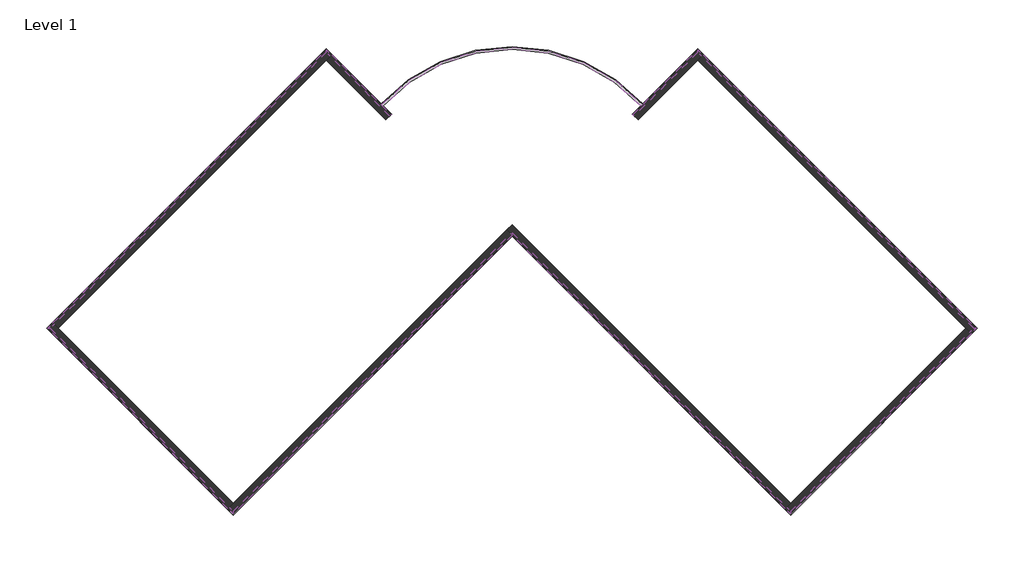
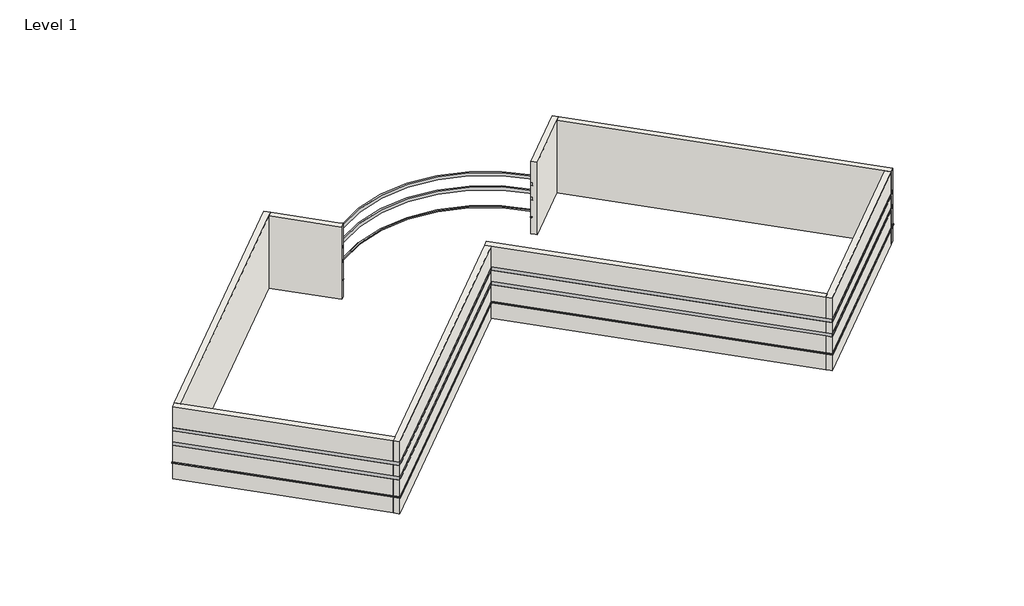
# One storey, incomplete: 27 proxies, 8 walls.
"""IFC4 building model written with IfcOpenShell, lengths in millimetres."""

from ifc_helpers import new_model, si_unit, point, frame, frame_2d, origin, place, context, project, spatial, polyline, circle_curve, trimmed, segment, composite_curve, outline, extrude, faceted_brep, element, save
from ifc_brep_helpers import plane_surface, cylinder_surface, revolved_surface, advanced_brep

model = new_model("IFC4")

# Units and contexts
model_context = context("Model", 3, world=origin())
ifc_project = project(units=[si_unit("LENGTHUNIT", "METRE", prefix="MILLI")], contexts=[model_context])

# Site, building, storey
site = spatial("IfcSite", under=ifc_project)
building = spatial("IfcBuilding", under=site)
storey = spatial("IfcBuildingStorey", under=building, Name="Level 1", Elevation=0.0)

# Proxies
placement = place(None, origin())
element("IfcBuildingElementProxy", 1, Name="Wall Sweeps", at=placement, inside=storey, context=model_context, shape_type="Brep", body=[
    faceted_brep([(4452.4879241, 1846.4678711, 1085.85), (4387.3810672, 1911.574728, 1085.85), (4362.6853629, 1936.2704323, 1041.4), (4362.6853629, 1936.2704323, 1016.0), (4387.3810672, 1911.574728, 1016.0), (4452.4879241, 1846.4678711, 1016.0), (7404.7471239, 4798.7270709, 1085.85), (7404.7471239, 4798.7270709, 1016.0), (7404.7471239, 4978.3321933, 1016.0), (7404.7471239, 4978.3321933, 1041.4), (7404.7471239, 4928.9407847, 1085.85)], [[[0, 1, 2, 3, 4, 5]], [[6, 7, 8, 9, 10]], [[1, 0, 6, 10]], [[2, 1, 10, 9]], [[3, 2, 9, 8]], [[5, 4, 3, 8, 7]], [[0, 5, 7, 6]]]),
])
element("IfcBuildingElementProxy", 2, Name="Wall Sweeps", at=placement, inside=storey, context=model_context, shape_type="SweptSolid", body=[
    extrude(outline(polyline([(4452.4879241, 1846.4678711), (4387.3810672, 1911.574728), (7404.7471239, 4928.9407847), (7404.7471239, 4798.7270709), (4452.4879241, 1846.4678711)])), frame((0.0, 0.0, 2133.6), z_axis=(0.0, 0.0, 1.0), x_axis=(1.0, 0.0, 0.0)), (0.0, 0.0, 1.0), 203.2),
])
element("IfcBuildingElementProxy", 3, Name="Wall Sweeps", at=placement, inside=storey, context=model_context, shape_type="SweptSolid", body=[
    extrude(outline(polyline([(4452.4879241, 1846.4678711), (4387.3810672, 1911.574728), (7404.7471239, 4928.9407847), (7404.7471239, 4798.7270709), (4452.4879241, 1846.4678711)])), frame((0.0, 0.0, 3048.0), z_axis=(0.0, 0.0, 1.0), x_axis=(1.0, 0.0, 0.0)), (0.0, 0.0, 1.0), 203.2),
])
element("IfcBuildingElementProxy", 4, Name="Wall Sweeps", at=placement, inside=storey, context=model_context, shape_type="Brep", body=[
    faceted_brep([(7404.7471239, 4798.7270709, 1085.85), (7404.7471239, 4928.9407847, 1085.85), (7404.7471239, 4978.3321933, 1041.4), (7404.7471239, 4978.3321933, 1016.0), (7404.7471239, 4798.7270709, 1016.0), (20206.1022245, -8002.6280297, 1085.85), (20206.1022245, -8002.6280297, 1016.0), (20385.7073469, -8002.6280297, 1016.0), (20385.7073469, -8002.6280297, 1041.4), (20336.3159382, -8002.6280297, 1085.85), (7588.8423744, 4614.6318204, 1085.85), (7588.8423744, 4614.6318204, 1016.0)], [[[0, 1, 2, 3, 4]], [[5, 6, 7, 8, 9]], [[1, 0, 10, 5, 9]], [[2, 1, 9, 8]], [[3, 2, 8, 7]], [[4, 3, 7, 6, 11]], [[0, 4, 11, 6, 5, 10]]]),
])
element("IfcBuildingElementProxy", 5, Name="Wall Sweeps", at=placement, inside=storey, context=model_context, shape_type="Brep", body=[
    faceted_brep([(7404.7471239, 4928.9407847, 2336.8), (7404.7471239, 4928.9407847, 2133.6), (7404.7471239, 4798.7270709, 2133.6), (7404.7471239, 4798.7270709, 2336.8), (20336.3159382, -8002.6280297, 2336.8), (20206.1022245, -8002.6280297, 2336.8), (20206.1022245, -8002.6280297, 2133.6), (20336.3159382, -8002.6280297, 2133.6), (7653.9492313, 4679.7386773, 2336.8), (7653.9492313, 4679.7386773, 2133.6), (7588.8423744, 4614.6318204, 2133.6), (7588.8423744, 4614.6318204, 2336.8)], [[[0, 1, 2, 3]], [[4, 5, 6, 7]], [[1, 0, 8, 4, 7, 9]], [[2, 1, 9, 7, 6, 10]], [[3, 2, 10, 6, 5, 11]], [[0, 3, 11, 5, 4, 8]]]),
])
element("IfcBuildingElementProxy", 6, Name="Wall Sweeps", at=placement, inside=storey, context=model_context, shape_type="Brep", body=[
    faceted_brep([(7404.7471239, 4928.9407847, 3251.2), (7404.7471239, 4928.9407847, 3048.0), (7404.7471239, 4798.7270709, 3048.0), (7404.7471239, 4798.7270709, 3251.2), (20336.3159382, -8002.6280297, 3251.2), (20206.1022245, -8002.6280297, 3251.2), (20206.1022245, -8002.6280297, 3048.0), (20336.3159382, -8002.6280297, 3048.0), (7653.9492313, 4679.7386773, 3251.2), (7653.9492313, 4679.7386773, 3048.0), (7588.8423744, 4614.6318204, 3048.0), (7588.8423744, 4614.6318204, 3251.2)], [[[0, 1, 2, 3]], [[4, 5, 6, 7]], [[1, 0, 8, 4, 7, 9]], [[2, 1, 9, 7, 6, 10]], [[3, 2, 10, 6, 5, 11]], [[0, 3, 11, 5, 4, 8]]]),
])
element("IfcBuildingElementProxy", 7, Name="Wall Sweeps", at=placement, inside=storey, context=model_context, shape_type="Brep", body=[
    faceted_brep([(20206.1022245, -8002.6280297, 1085.85), (20336.3159382, -8002.6280297, 1085.85), (20385.7073469, -8002.6280297, 1041.4), (20385.7073469, -8002.6280297, 1016.0), (20206.1022245, -8002.6280297, 1016.0), (11715.270062, -16493.4601921, 1085.85), (11715.270062, -16493.4601921, 1016.0), (11715.270062, -16673.0653146, 1016.0), (11715.270062, -16673.0653146, 1041.4), (11715.270062, -16623.6739059, 1085.85), (20022.006974, -8186.7232802, 1085.85), (20022.006974, -8186.7232802, 1016.0)], [[[0, 1, 2, 3, 4]], [[5, 6, 7, 8, 9]], [[1, 0, 10, 5, 9]], [[2, 1, 9, 8]], [[3, 2, 8, 7]], [[4, 3, 7, 6, 11]], [[0, 4, 11, 6, 5, 10]]]),
])
element("IfcBuildingElementProxy", 8, Name="Wall Sweeps", at=placement, inside=storey, context=model_context, shape_type="Brep", body=[
    faceted_brep([(20336.3159382, -8002.6280297, 2336.8), (20336.3159382, -8002.6280297, 2133.6), (20206.1022245, -8002.6280297, 2133.6), (20206.1022245, -8002.6280297, 2336.8), (11715.270062, -16623.6739059, 2336.8), (11715.270062, -16493.4601921, 2336.8), (11715.270062, -16493.4601921, 2133.6), (11715.270062, -16623.6739059, 2133.6), (20087.1138309, -8251.830137, 2336.8), (20087.1138309, -8251.830137, 2133.6), (20022.006974, -8186.7232802, 2133.6), (20022.006974, -8186.7232802, 2336.8)], [[[0, 1, 2, 3]], [[4, 5, 6, 7]], [[1, 0, 8, 4, 7, 9]], [[2, 1, 9, 7, 6, 10]], [[3, 2, 10, 6, 5, 11]], [[0, 3, 11, 5, 4, 8]]]),
])
element("IfcBuildingElementProxy", 9, Name="Wall Sweeps", at=placement, inside=storey, context=model_context, shape_type="Brep", body=[
    faceted_brep([(20336.3159382, -8002.6280297, 3251.2), (20336.3159382, -8002.6280297, 3048.0), (20206.1022245, -8002.6280297, 3048.0), (20206.1022245, -8002.6280297, 3251.2), (11715.270062, -16623.6739059, 3251.2), (11715.270062, -16493.4601921, 3251.2), (11715.270062, -16493.4601921, 3048.0), (11715.270062, -16623.6739059, 3048.0), (20087.1138309, -8251.830137, 3251.2), (20087.1138309, -8251.830137, 3048.0), (20022.006974, -8186.7232802, 3048.0), (20022.006974, -8186.7232802, 3251.2)], [[[0, 1, 2, 3]], [[4, 5, 6, 7]], [[1, 0, 8, 4, 7, 9]], [[2, 1, 9, 7, 6, 10]], [[3, 2, 10, 6, 5, 11]], [[0, 3, 11, 5, 4, 8]]]),
])
element("IfcBuildingElementProxy", 10, Name="Wall Sweeps", at=placement, inside=storey, context=model_context, shape_type="Brep", body=[
    faceted_brep([(11715.270062, -16493.4601921, 1085.85), (11715.270062, -16623.6739059, 1085.85), (11715.270062, -16673.0653146, 1041.4), (11715.270062, -16673.0653146, 1016.0), (11715.270062, -16493.4601921, 1016.0), (-1216.2987523, -3561.8913778, 1085.85), (-1216.2987523, -3561.8913778, 1016.0), (-1216.2987523, -3741.4965002, 1016.0), (-1216.2987523, -3741.4965002, 1041.4), (-1216.2987523, -3692.1050916, 1085.85), (11531.1748115, -16309.3649417, 1085.85), (11531.1748115, -16309.3649417, 1016.0)], [[[0, 1, 2, 3, 4]], [[5, 6, 7, 8, 9]], [[1, 0, 10, 5, 9]], [[2, 1, 9, 8]], [[3, 2, 8, 7]], [[4, 3, 7, 6, 11]], [[0, 4, 11, 6, 5, 10]]]),
])
element("IfcBuildingElementProxy", 11, Name="Wall Sweeps", at=placement, inside=storey, context=model_context, shape_type="Brep", body=[
    faceted_brep([(11715.270062, -16623.6739059, 2336.8), (11715.270062, -16623.6739059, 2133.6), (11715.270062, -16493.4601921, 2133.6), (11715.270062, -16493.4601921, 2336.8), (-1216.2987523, -3692.1050916, 2336.8), (-1216.2987523, -3561.8913778, 2336.8), (-1216.2987523, -3561.8913778, 2133.6), (-1216.2987523, -3692.1050916, 2133.6), (11466.0679546, -16374.4717985, 2336.8), (11466.0679546, -16374.4717985, 2133.6), (11531.1748115, -16309.3649417, 2133.6), (11531.1748115, -16309.3649417, 2336.8)], [[[0, 1, 2, 3]], [[4, 5, 6, 7]], [[1, 0, 8, 4, 7, 9]], [[2, 1, 9, 7, 6, 10]], [[3, 2, 10, 6, 5, 11]], [[0, 3, 11, 5, 4, 8]]]),
])
element("IfcBuildingElementProxy", 12, Name="Wall Sweeps", at=placement, inside=storey, context=model_context, shape_type="Brep", body=[
    faceted_brep([(11715.270062, -16623.6739059, 3251.2), (11715.270062, -16623.6739059, 3048.0), (11715.270062, -16493.4601921, 3048.0), (11715.270062, -16493.4601921, 3251.2), (-1216.2987523, -3692.1050916, 3251.2), (-1216.2987523, -3561.8913778, 3251.2), (-1216.2987523, -3561.8913778, 3048.0), (-1216.2987523, -3692.1050916, 3048.0), (11466.0679546, -16374.4717985, 3251.2), (11466.0679546, -16374.4717985, 3048.0), (11531.1748115, -16309.3649417, 3048.0), (11531.1748115, -16309.3649417, 3251.2)], [[[0, 1, 2, 3]], [[4, 5, 6, 7]], [[1, 0, 8, 4, 7, 9]], [[2, 1, 9, 7, 6, 10]], [[3, 2, 10, 6, 5, 11]], [[0, 3, 11, 5, 4, 8]]]),
])
element("IfcBuildingElementProxy", 13, Name="Wall Sweeps", at=placement, inside=storey, context=model_context, shape_type="Brep", body=[
    faceted_brep([(-1216.2987523, -3561.8913778, 1085.85), (-1216.2987523, -3692.1050916, 1085.85), (-1216.2987523, -3741.4965002, 1041.4), (-1216.2987523, -3741.4965002, 1016.0), (-1216.2987523, -3561.8913778, 1016.0), (-14147.8675667, -16493.4601921, 1085.85), (-14147.8675667, -16493.4601921, 1016.0), (-14147.8675667, -16673.0653146, 1016.0), (-14147.8675667, -16673.0653146, 1041.4), (-14147.8675667, -16623.6739059, 1085.85), (-1281.4056092, -3626.9982347, 1085.85), (-1281.4056092, -3626.9982347, 1016.0)], [[[0, 1, 2, 3, 4]], [[5, 6, 7, 8, 9]], [[1, 0, 10, 5, 9]], [[2, 1, 9, 8]], [[3, 2, 8, 7]], [[4, 3, 7, 6, 11]], [[0, 4, 11, 6, 5, 10]]]),
])
element("IfcBuildingElementProxy", 14, Name="Wall Sweeps", at=placement, inside=storey, context=model_context, shape_type="Brep", body=[
    faceted_brep([(-1216.2987523, -3692.1050916, 2336.8), (-1216.2987523, -3692.1050916, 2133.6), (-1216.2987523, -3561.8913778, 2133.6), (-1216.2987523, -3561.8913778, 2336.8), (-14147.8675667, -16623.6739059, 2336.8), (-14147.8675667, -16493.4601921, 2336.8), (-14147.8675667, -16493.4601921, 2133.6), (-14147.8675667, -16623.6739059, 2133.6), (-1281.4056092, -3626.9982347, 2133.6), (-1281.4056092, -3626.9982347, 2336.8)], [[[0, 1, 2, 3]], [[4, 5, 6, 7]], [[1, 0, 4, 7]], [[2, 1, 7, 6, 8]], [[3, 2, 8, 6, 5, 9]], [[0, 3, 9, 5, 4]]]),
])
element("IfcBuildingElementProxy", 15, Name="Wall Sweeps", at=placement, inside=storey, context=model_context, shape_type="Brep", body=[
    faceted_brep([(-1216.2987523, -3692.1050916, 3251.2), (-1216.2987523, -3692.1050916, 3048.0), (-1216.2987523, -3561.8913778, 3048.0), (-1216.2987523, -3561.8913778, 3251.2), (-14147.8675667, -16623.6739059, 3251.2), (-14147.8675667, -16493.4601921, 3251.2), (-14147.8675667, -16493.4601921, 3048.0), (-14147.8675667, -16623.6739059, 3048.0), (-1281.4056092, -3626.9982347, 3048.0), (-1281.4056092, -3626.9982347, 3251.2)], [[[0, 1, 2, 3]], [[4, 5, 6, 7]], [[1, 0, 4, 7]], [[2, 1, 7, 6, 8]], [[3, 2, 8, 6, 5, 9]], [[0, 3, 9, 5, 4]]]),
])
element("IfcBuildingElementProxy", 16, Name="Wall Sweeps", at=placement, inside=storey, context=model_context, shape_type="Brep", body=[
    faceted_brep([(-14147.8675667, -16493.4601921, 1085.85), (-14147.8675667, -16623.6739059, 1085.85), (-14147.8675667, -16673.0653146, 1041.4), (-14147.8675667, -16673.0653146, 1016.0), (-14147.8675667, -16493.4601921, 1016.0), (-22638.6997291, -8002.6280297, 1085.85), (-22638.6997291, -8002.6280297, 1016.0), (-22818.3048516, -8002.6280297, 1016.0), (-22818.3048516, -8002.6280297, 1041.4), (-22768.9134429, -8002.6280297, 1085.85), (-14331.9628172, -16309.3649417, 1085.85), (-14331.9628172, -16309.3649417, 1016.0)], [[[0, 1, 2, 3, 4]], [[5, 6, 7, 8, 9]], [[1, 0, 10, 5, 9]], [[2, 1, 9, 8]], [[3, 2, 8, 7]], [[4, 3, 7, 6, 11]], [[0, 4, 11, 6, 5, 10]]]),
])
element("IfcBuildingElementProxy", 17, Name="Wall Sweeps", at=placement, inside=storey, context=model_context, shape_type="Brep", body=[
    faceted_brep([(-14147.8675667, -16623.6739059, 2336.8), (-14147.8675667, -16623.6739059, 2133.6), (-14147.8675667, -16493.4601921, 2133.6), (-14147.8675667, -16493.4601921, 2336.8), (-22768.9134429, -8002.6280297, 2336.8), (-22638.6997291, -8002.6280297, 2336.8), (-22638.6997291, -8002.6280297, 2133.6), (-22768.9134429, -8002.6280297, 2133.6), (-14397.069674, -16374.4717985, 2336.8), (-14397.069674, -16374.4717985, 2133.6), (-14331.9628172, -16309.3649417, 2133.6), (-14331.9628172, -16309.3649417, 2336.8)], [[[0, 1, 2, 3]], [[4, 5, 6, 7]], [[1, 0, 8, 4, 7, 9]], [[2, 1, 9, 7, 6, 10]], [[3, 2, 10, 6, 5, 11]], [[0, 3, 11, 5, 4, 8]]]),
])
element("IfcBuildingElementProxy", 18, Name="Wall Sweeps", at=placement, inside=storey, context=model_context, shape_type="Brep", body=[
    faceted_brep([(-14147.8675667, -16623.6739059, 3251.2), (-14147.8675667, -16623.6739059, 3048.0), (-14147.8675667, -16493.4601921, 3048.0), (-14147.8675667, -16493.4601921, 3251.2), (-22768.9134429, -8002.6280297, 3251.2), (-22638.6997291, -8002.6280297, 3251.2), (-22638.6997291, -8002.6280297, 3048.0), (-22768.9134429, -8002.6280297, 3048.0), (-14397.069674, -16374.4717985, 3251.2), (-14397.069674, -16374.4717985, 3048.0), (-14331.9628172, -16309.3649417, 3048.0), (-14331.9628172, -16309.3649417, 3251.2)], [[[0, 1, 2, 3]], [[4, 5, 6, 7]], [[1, 0, 8, 4, 7, 9]], [[2, 1, 9, 7, 6, 10]], [[3, 2, 10, 6, 5, 11]], [[0, 3, 11, 5, 4, 8]]]),
])
element("IfcBuildingElementProxy", 19, Name="Wall Sweeps", at=placement, inside=storey, context=model_context, shape_type="Brep", body=[
    faceted_brep([(-22638.6997291, -8002.6280297, 1085.85), (-22768.9134429, -8002.6280297, 1085.85), (-22818.3048516, -8002.6280297, 1041.4), (-22818.3048516, -8002.6280297, 1016.0), (-22638.6997291, -8002.6280297, 1016.0), (-9837.3446286, 4798.7270709, 1085.85), (-9837.3446286, 4798.7270709, 1016.0), (-9837.3446286, 4978.3321933, 1016.0), (-9837.3446286, 4978.3321933, 1041.4), (-9837.3446286, 4928.9407847, 1085.85), (-22454.6044787, -7818.5327792, 1085.85), (-22454.6044787, -7818.5327792, 1016.0)], [[[0, 1, 2, 3, 4]], [[5, 6, 7, 8, 9]], [[1, 0, 10, 5, 9]], [[2, 1, 9, 8]], [[3, 2, 8, 7]], [[4, 3, 7, 6, 11]], [[0, 4, 11, 6, 5, 10]]]),
])
element("IfcBuildingElementProxy", 20, Name="Wall Sweeps", at=placement, inside=storey, context=model_context, shape_type="Brep", body=[
    faceted_brep([(-22768.9134429, -8002.6280297, 2336.8), (-22768.9134429, -8002.6280297, 2133.6), (-22638.6997291, -8002.6280297, 2133.6), (-22638.6997291, -8002.6280297, 2336.8), (-9837.3446286, 4928.9407847, 2336.8), (-9837.3446286, 4798.7270709, 2336.8), (-9837.3446286, 4798.7270709, 2133.6), (-9837.3446286, 4928.9407847, 2133.6), (-22519.7113355, -7753.4259223, 2336.8), (-22519.7113355, -7753.4259223, 2133.6), (-22454.6044787, -7818.5327792, 2133.6), (-22454.6044787, -7818.5327792, 2336.8)], [[[0, 1, 2, 3]], [[4, 5, 6, 7]], [[1, 0, 8, 4, 7, 9]], [[2, 1, 9, 7, 6, 10]], [[3, 2, 10, 6, 5, 11]], [[0, 3, 11, 5, 4, 8]]]),
])
element("IfcBuildingElementProxy", 21, Name="Wall Sweeps", at=placement, inside=storey, context=model_context, shape_type="Brep", body=[
    faceted_brep([(-22768.9134429, -8002.6280297, 3251.2), (-22768.9134429, -8002.6280297, 3048.0), (-22638.6997291, -8002.6280297, 3048.0), (-22638.6997291, -8002.6280297, 3251.2), (-9837.3446286, 4928.9407847, 3251.2), (-9837.3446286, 4798.7270709, 3251.2), (-9837.3446286, 4798.7270709, 3048.0), (-9837.3446286, 4928.9407847, 3048.0), (-22519.7113355, -7753.4259223, 3251.2), (-22519.7113355, -7753.4259223, 3048.0), (-22454.6044787, -7818.5327792, 3048.0), (-22454.6044787, -7818.5327792, 3251.2)], [[[0, 1, 2, 3]], [[4, 5, 6, 7]], [[1, 0, 8, 4, 7, 9]], [[2, 1, 9, 7, 6, 10]], [[3, 2, 10, 6, 5, 11]], [[0, 3, 11, 5, 4, 8]]]),
])
element("IfcBuildingElementProxy", 22, Name="Wall Sweeps", at=placement, inside=storey, context=model_context, shape_type="Brep", body=[
    faceted_brep([(-9837.3446286, 4798.7270709, 1085.85), (-9837.3446286, 4928.9407847, 1085.85), (-9837.3446286, 4978.3321933, 1041.4), (-9837.3446286, 4978.3321933, 1016.0), (-9837.3446286, 4798.7270709, 1016.0), (-6885.0854288, 1846.4678711, 1085.85), (-6885.0854288, 1846.4678711, 1016.0), (-6819.9785719, 1911.574728, 1016.0), (-6795.2828675, 1936.2704323, 1016.0), (-6795.2828675, 1936.2704323, 1041.4), (-6819.9785719, 1911.574728, 1085.85), (-9653.2493781, 4614.6318204, 1085.85), (-9653.2493781, 4614.6318204, 1016.0)], [[[0, 1, 2, 3, 4]], [[5, 6, 7, 8, 9, 10]], [[1, 0, 11, 5, 10]], [[2, 1, 10, 9]], [[3, 2, 9, 8]], [[4, 3, 8, 7, 6, 12]], [[0, 4, 12, 6, 5, 11]]]),
])
element("IfcBuildingElementProxy", 23, Name="Wall Sweeps", at=placement, inside=storey, context=model_context, shape_type="Brep", body=[
    faceted_brep([(-9837.3446286, 4928.9407847, 2336.8), (-9837.3446286, 4928.9407847, 2133.6), (-9837.3446286, 4798.7270709, 2133.6), (-9837.3446286, 4798.7270709, 2336.8), (-6819.9785719, 1911.574728, 2336.8), (-6885.0854288, 1846.4678711, 2336.8), (-6885.0854288, 1846.4678711, 2133.6), (-6819.9785719, 1911.574728, 2133.6), (-9588.1425212, 4679.7386773, 2336.8), (-9588.1425212, 4679.7386773, 2133.6), (-9653.2493781, 4614.6318204, 2133.6), (-9653.2493781, 4614.6318204, 2336.8)], [[[0, 1, 2, 3]], [[4, 5, 6, 7]], [[1, 0, 8, 4, 7, 9]], [[2, 1, 9, 7, 6, 10]], [[3, 2, 10, 6, 5, 11]], [[0, 3, 11, 5, 4, 8]]]),
])
element("IfcBuildingElementProxy", 24, Name="Wall Sweeps", at=placement, inside=storey, context=model_context, shape_type="Brep", body=[
    faceted_brep([(-9837.3446286, 4928.9407847, 3251.2), (-9837.3446286, 4928.9407847, 3048.0), (-9837.3446286, 4798.7270709, 3048.0), (-9837.3446286, 4798.7270709, 3251.2), (-6819.9785719, 1911.574728, 3251.2), (-6885.0854288, 1846.4678711, 3251.2), (-6885.0854288, 1846.4678711, 3048.0), (-6819.9785719, 1911.574728, 3048.0), (-9588.1425212, 4679.7386773, 3251.2), (-9588.1425212, 4679.7386773, 3048.0), (-9653.2493781, 4614.6318204, 3048.0), (-9653.2493781, 4614.6318204, 3251.2)], [[[0, 1, 2, 3]], [[4, 5, 6, 7]], [[1, 0, 8, 4, 7, 9]], [[2, 1, 9, 7, 6, 10]], [[3, 2, 10, 6, 5, 11]], [[0, 3, 11, 5, 4, 8]]]),
])
element("IfcBuildingElementProxy", 25, Name="Wall Sweeps", at=placement, inside=storey, context=model_context, shape_type="AdvancedBrep", body=[
    advanced_brep(
    [(-7211.5331822, 2308.70562, 1085.85), (-7279.3684528, 2370.9646089, 1085.85), (-7305.0990726, 2394.5800874, 1041.4), (-7305.0990726, 2394.5800874, 1016.0), (-7279.3684528, 2370.9646089, 1016.0), (-7211.5331822, 2308.70562, 1016.0), (4778.9356775, 2308.70562, 1085.85), (4778.9356775, 2308.70562, 1016.0), (4846.7709481, 2370.9646089, 1016.0), (4872.501568, 2394.5800874, 1016.0), (4872.501568, 2394.5800874, 1041.4), (4846.7709481, 2370.9646089, 1085.85)],
    [
        (0, 1),
        (1, 2),
        (2, 3),
        (3, 4),
        (4, 5),
        (5, 0),
        (6, 7),
        (7, 8),
        (8, 9),
        (9, 10),
        (10, 11),
        (11, 6),
        (11, 1, circle_curve(frame((-1216.2987523, -3193.7008768, 1085.85), z_axis=(0.0, 0.0, 1.0), x_axis=(-0.7367392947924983, 0.6761769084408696, 0.0)), 8229.6)),
        (0, 6, circle_curve(frame((-1216.2987523, -3193.7008768, 1085.85), z_axis=(0.0, 0.0, -1.0), x_axis=(-0.7367392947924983, 0.6761769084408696, 0.0)), 8137.525)),
        (10, 2, circle_curve(frame((-1216.2987523, -3193.7008768, 1041.4), z_axis=(0.0, 0.0, 1.0), x_axis=(-0.7367392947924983, 0.6761769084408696, 0.0)), 8264.525)),
        (9, 3, circle_curve(frame((-1216.2987523, -3193.7008768, 1016.0), z_axis=(0.0, 0.0, 1.0), x_axis=(-0.7367392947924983, 0.6761769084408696, 0.0)), 8264.525)),
        (7, 5, circle_curve(frame((-1216.2987523, -3193.7008768, 1016.0), z_axis=(0.0, 0.0, 1.0), x_axis=(-0.7367392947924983, 0.6761769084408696, 0.0)), 8137.525)),
    ],
    [
        plane_surface(frame((-1216.2987523, -3193.7008768, 1016.0), z_axis=(-0.6761769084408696, -0.7367392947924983, 0.0), x_axis=(-0.7367392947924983, 0.6761769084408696, 0.0))),
        plane_surface(frame((-1216.2987523, -3193.7008768, 1016.0), z_axis=(0.676176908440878, -0.7367392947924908, 0.0), x_axis=(0.7367392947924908, 0.676176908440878, 0.0))),
        plane_surface(frame((-1216.2987523, -3193.7008768, 1085.85), z_axis=(0.0, 0.0, 1.0), x_axis=(-0.7367392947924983, 0.6761769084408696, 0.0))),
        revolved_surface(polyline([(-7279.3684528, 2370.9646089, 1085.85), (-7305.0990726, 2394.5800874, 1041.4)]), (-1216.2987523, -3193.7008768, 1016.0), (0.0, 0.0, -1.0)),
        cylinder_surface(frame((-1216.2987523, -3193.7008768, 1016.0), z_axis=(0.0, 0.0, -1.0), x_axis=(-0.7367392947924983, 0.6761769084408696, 0.0)), 8264.525),
        plane_surface(frame((-1216.2987523, -3193.7008768, 1016.0), z_axis=(0.0, 0.0, -1.0), x_axis=(-0.7367392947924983, 0.6761769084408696, 0.0))),
        revolved_surface(polyline([(-7211.533182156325, 2308.705620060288, 1016.0), (-7211.533182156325, 2308.705620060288, 1085.85)]), (-1216.2987523, -3193.7008768, 1016.0), (0.0, 0.0, -1.0)),
    ],
    [
        (0, [[1, 2, 3, 4, 5, 6]]),
        (1, [[7, 8, 9, 10, 11, 12]]),
        (2, [[13, -1, 14, -12]]),
        (3, [[15, -2, -13, -11]]),
        (4, [[16, -3, -15, -10]]),
        (5, [[17, -5, -4, -16, -9, -8]]),
        (6, [[-14, -6, -17, -7]]),
    ],
),
])
element("IfcBuildingElementProxy", 26, Name="Wall Sweeps", at=placement, inside=storey, context=model_context, shape_type="SweptSolid", body=[
    extrude(outline(composite_curve([segment(trimmed(circle_curve(frame_2d((-1216.2987523, -3193.7008768)), 8137.525), [point((4778.9356775, 2308.70562))], [point((-7211.5331822, 2308.70562))], True, "CARTESIAN"), True, "CONTINUOUS"), segment(polyline([(-7211.5331822, 2308.70562), (-7279.3684528, 2370.9646089)]), True, "CONTINUOUS"), segment(trimmed(circle_curve(frame_2d((-1216.2987523, -3193.7008768)), 8229.6), [point((-7279.3684528, 2370.9646089))], [point((4846.7709481, 2370.9646089))], False, "CARTESIAN"), True, "CONTINUOUS"), segment(polyline([(4846.7709481, 2370.9646089), (4778.9356775, 2308.70562)]), True, "CONTINUOUS")], self_intersect=False)), frame((0.0, 0.0, 2133.6), z_axis=(0.0, 0.0, 1.0), x_axis=(1.0, 0.0, 0.0)), (0.0, 0.0, 1.0), 203.2),
])
element("IfcBuildingElementProxy", 27, Name="Wall Sweeps", at=placement, inside=storey, context=model_context, shape_type="SweptSolid", body=[
    extrude(outline(composite_curve([segment(trimmed(circle_curve(frame_2d((-1216.2987523, -3193.7008768)), 8137.525), [point((4778.9356775, 2308.70562))], [point((-7211.5331822, 2308.70562))], True, "CARTESIAN"), True, "CONTINUOUS"), segment(polyline([(-7211.5331822, 2308.70562), (-7279.3684528, 2370.9646089)]), True, "CONTINUOUS"), segment(trimmed(circle_curve(frame_2d((-1216.2987523, -3193.7008768)), 8229.6), [point((-7279.3684528, 2370.9646089))], [point((4846.7709481, 2370.9646089))], False, "CARTESIAN"), True, "CONTINUOUS"), segment(polyline([(4846.7709481, 2370.9646089), (4778.9356775, 2308.70562)]), True, "CONTINUOUS")], self_intersect=False)), frame((0.0, 0.0, 3048.0), z_axis=(0.0, 0.0, 1.0), x_axis=(1.0, 0.0, 0.0)), (0.0, 0.0, 1.0), 203.2),
])

# Walls
element("IfcWall", 28, ObjectType="Exterior - Split Face and CMU on Mtl. Stud", at=placement, inside=storey, context=model_context, shape_type="Brep", body=[
    faceted_brep([(4636.5831746, 1662.3726206, 0.0), (7404.7471239, 4430.5365699, 0.0), (7653.9492313, 4679.7386773, 0.0), (7653.9492313, 4679.7386773, 1016.0), (7588.8423744, 4614.6318204, 1016.0), (7588.8423744, 4614.6318204, 1085.85), (7653.9492313, 4679.7386773, 1085.85), (7653.9492313, 4679.7386773, 2133.6), (7588.8423744, 4614.6318204, 2133.6), (7588.8423744, 4614.6318204, 2336.8), (7653.9492313, 4679.7386773, 2336.8), (7653.9492313, 4679.7386773, 3048.0), (7588.8423744, 4614.6318204, 3048.0), (7588.8423744, 4614.6318204, 3251.2), (7653.9492313, 4679.7386773, 3251.2), (7653.9492313, 4679.7386773, 4572.0), (7404.7471239, 4430.5365699, 4572.0), (4636.5831746, 1662.3726206, 4572.0), (7404.7471239, 4928.9407847, 1085.85), (4387.3810672, 1911.574728, 1085.85), (4387.3810672, 1911.574728, 2133.6), (7404.7471239, 4928.9407847, 2133.6), (7404.7471239, 4928.9407847, 2336.8), (4387.3810672, 1911.574728, 2336.8), (4387.3810672, 1911.574728, 3048.0), (7404.7471239, 4928.9407847, 3048.0), (4387.3810672, 1911.574728, 4572.0), (4597.3297675, 2121.5234283, 4572.0), (4846.7709481, 2370.9646089, 4572.0), (7404.7471239, 4928.9407847, 4572.0), (7404.7471239, 4928.9407847, 3251.2), (4387.3810672, 1911.574728, 3251.2), (7404.7471239, 4928.9407847, 0.0), (4846.7709481, 2370.9646089, 0.0), (4597.3297675, 2121.5234283, 0.0), (4387.3810672, 1911.574728, 0.0), (4387.3810672, 1911.574728, 1016.0), (7404.7471239, 4928.9407847, 1016.0), (4452.4879241, 1846.4678711, 3251.2), (4452.4879241, 1846.4678711, 3048.0), (4452.4879241, 1846.4678711, 2336.8), (4452.4879241, 1846.4678711, 2133.6), (4452.4879241, 1846.4678711, 1085.85), (4452.4879241, 1846.4678711, 1016.0), (4452.4879241, 1846.4678711, 0.0), (7469.8539808, 4863.8339278, 0.0), (7404.7471239, 4798.7270709, 1085.85), (7404.7471239, 4798.7270709, 1016.0), (7404.7471239, 4798.7270709, 2133.6), (7404.7471239, 4798.7270709, 2336.8), (7404.7471239, 4798.7270709, 3048.0), (7404.7471239, 4798.7270709, 3251.2)], [[[0, 1, 2, 3, 4, 5, 6, 7, 8, 9, 10, 11, 12, 13, 14, 15, 16, 17]], [[18, 19, 20, 21]], [[22, 23, 24, 25]], [[26, 27, 28, 29, 30, 31]], [[32, 33, 34, 35, 36, 37]], [[17, 16, 15, 29, 28, 27, 26]], [[0, 17, 26, 31, 38, 39, 24, 23, 40, 41, 20, 19, 42, 43, 36, 35, 44]], [[2, 1, 0, 44, 45]], [[44, 35, 34, 33, 32, 45]], [[46, 42, 19, 18, 6, 5]], [[43, 47, 4, 3, 37, 36]], [[42, 46, 47, 43]], [[41, 48, 8, 7, 21, 20]], [[48, 41, 40, 49]], [[49, 40, 23, 22, 10, 9]], [[39, 50, 12, 11, 25, 24]], [[50, 39, 38, 51]], [[51, 38, 31, 30, 14, 13]], [[29, 15, 14, 30]], [[2, 45, 32, 37, 3]], [[6, 18, 21, 7]], [[10, 22, 25, 11]], [[47, 46, 5, 4]], [[48, 49, 9, 8]], [[50, 51, 13, 12]]]),
])
element("IfcWall", 29, ObjectType="Exterior - Split Face and CMU on Mtl. Stud", at=placement, inside=storey, context=model_context, shape_type="Brep", body=[
    faceted_brep([(7404.7471239, 4430.5365699, 0.0), (19837.9117235, -8002.6280297, 0.0), (20087.1138309, -8251.830137, 0.0), (20087.1138309, -8251.830137, 1016.0), (20022.006974, -8186.7232802, 1016.0), (20022.006974, -8186.7232802, 1085.85), (20087.1138309, -8251.830137, 1085.85), (20087.1138309, -8251.830137, 2133.6), (20022.006974, -8186.7232802, 2133.6), (20022.006974, -8186.7232802, 2336.8), (20087.1138309, -8251.830137, 2336.8), (20087.1138309, -8251.830137, 3048.0), (20022.006974, -8186.7232802, 3048.0), (20022.006974, -8186.7232802, 3251.2), (20087.1138309, -8251.830137, 3251.2), (20087.1138309, -8251.830137, 4572.0), (19837.9117235, -8002.6280297, 4572.0), (7404.7471239, 4430.5365699, 4572.0), (7653.9492313, 4679.7386773, 4572.0), (20336.3159382, -8002.6280297, 4572.0), (20336.3159382, -8002.6280297, 3251.2), (7653.9492313, 4679.7386773, 3251.2), (20336.3159382, -8002.6280297, 0.0), (7653.9492313, 4679.7386773, 0.0), (7653.9492313, 4679.7386773, 1016.0), (20336.3159382, -8002.6280297, 1016.0), (20336.3159382, -8002.6280297, 1085.85), (7653.9492313, 4679.7386773, 1085.85), (7653.9492313, 4679.7386773, 2133.6), (20336.3159382, -8002.6280297, 2133.6), (20336.3159382, -8002.6280297, 2336.8), (7653.9492313, 4679.7386773, 2336.8), (7653.9492313, 4679.7386773, 3048.0), (20336.3159382, -8002.6280297, 3048.0), (7588.8423744, 4614.6318204, 0.0), (20271.2090814, -8067.7348866, 0.0), (20206.1022245, -8002.6280297, 1016.0), (7588.8423744, 4614.6318204, 1016.0), (7588.8423744, 4614.6318204, 1085.85), (20206.1022245, -8002.6280297, 1085.85), (20206.1022245, -8002.6280297, 2133.6), (7588.8423744, 4614.6318204, 2133.6), (7588.8423744, 4614.6318204, 2336.8), (20206.1022245, -8002.6280297, 2336.8), (20206.1022245, -8002.6280297, 3251.2), (20206.1022245, -8002.6280297, 3048.0), (7588.8423744, 4614.6318204, 3048.0), (7588.8423744, 4614.6318204, 3251.2)], [[[0, 1, 2, 3, 4, 5, 6, 7, 8, 9, 10, 11, 12, 13, 14, 15, 16, 17]], [[18, 19, 20, 21]], [[22, 23, 24, 25]], [[26, 27, 28, 29]], [[30, 31, 32, 33]], [[17, 16, 15, 19, 18]], [[2, 1, 0, 34, 35]], [[36, 37, 38, 39]], [[40, 41, 42, 43]], [[44, 45, 46, 47]], [[0, 17, 18, 21, 47, 46, 32, 31, 42, 41, 28, 27, 38, 37, 24, 23, 34]], [[23, 22, 35, 34]], [[39, 38, 27, 26, 6, 5]], [[37, 36, 4, 3, 25, 24]], [[41, 40, 8, 7, 29, 28]], [[43, 42, 31, 30, 10, 9]], [[46, 45, 12, 11, 33, 32]], [[13, 44, 47, 21, 20, 14]], [[19, 15, 14, 20]], [[2, 35, 22, 25, 3]], [[6, 26, 29, 7]], [[10, 30, 33, 11]], [[36, 39, 5, 4]], [[40, 43, 9, 8]], [[45, 44, 13, 12]]]),
])
element("IfcWall", 30, ObjectType="Exterior - Split Face and CMU on Mtl. Stud", at=placement, inside=storey, context=model_context, shape_type="Brep", body=[
    faceted_brep([(19837.9117235, -8002.6280297, 0.0), (11715.270062, -16125.2696912, 0.0), (11466.0679546, -16374.4717985, 0.0), (11466.0679546, -16374.4717985, 1016.0), (11531.1748115, -16309.3649417, 1016.0), (11531.1748115, -16309.3649417, 1085.85), (11466.0679546, -16374.4717985, 1085.85), (11466.0679546, -16374.4717985, 2133.6), (11531.1748115, -16309.3649417, 2133.6), (11531.1748115, -16309.3649417, 2336.8), (11466.0679546, -16374.4717985, 2336.8), (11466.0679546, -16374.4717985, 3048.0), (11531.1748115, -16309.3649417, 3048.0), (11531.1748115, -16309.3649417, 3251.2), (11466.0679546, -16374.4717985, 3251.2), (11466.0679546, -16374.4717985, 4572.0), (11715.270062, -16125.2696912, 4572.0), (19837.9117235, -8002.6280297, 4572.0), (20087.1138309, -8251.830137, 4572.0), (11715.270062, -16623.6739059, 4572.0), (11715.270062, -16623.6739059, 3251.2), (20087.1138309, -8251.830137, 3251.2), (11715.270062, -16623.6739059, 0.0), (20087.1138309, -8251.830137, 0.0), (20087.1138309, -8251.830137, 1016.0), (11715.270062, -16623.6739059, 1016.0), (11715.270062, -16623.6739059, 1085.85), (20087.1138309, -8251.830137, 1085.85), (20087.1138309, -8251.830137, 2133.6), (11715.270062, -16623.6739059, 2133.6), (11715.270062, -16623.6739059, 2336.8), (20087.1138309, -8251.830137, 2336.8), (20087.1138309, -8251.830137, 3048.0), (11715.270062, -16623.6739059, 3048.0), (20022.006974, -8186.7232802, 0.0), (11650.1632051, -16558.567049, 0.0), (11715.270062, -16493.4601921, 1016.0), (20022.006974, -8186.7232802, 1016.0), (20022.006974, -8186.7232802, 1085.85), (11715.270062, -16493.4601921, 1085.85), (11715.270062, -16493.4601921, 2133.6), (20022.006974, -8186.7232802, 2133.6), (20022.006974, -8186.7232802, 2336.8), (11715.270062, -16493.4601921, 2336.8), (11715.270062, -16493.4601921, 3251.2), (11715.270062, -16493.4601921, 3048.0), (20022.006974, -8186.7232802, 3048.0), (20022.006974, -8186.7232802, 3251.2)], [[[0, 1, 2, 3, 4, 5, 6, 7, 8, 9, 10, 11, 12, 13, 14, 15, 16, 17]], [[18, 19, 20, 21]], [[22, 23, 24, 25]], [[26, 27, 28, 29]], [[30, 31, 32, 33]], [[17, 16, 15, 19, 18]], [[2, 1, 0, 34, 35]], [[36, 37, 38, 39]], [[40, 41, 42, 43]], [[44, 45, 46, 47]], [[0, 17, 18, 21, 47, 46, 32, 31, 42, 41, 28, 27, 38, 37, 24, 23, 34]], [[23, 22, 35, 34]], [[39, 38, 27, 26, 6, 5]], [[37, 36, 4, 3, 25, 24]], [[41, 40, 8, 7, 29, 28]], [[43, 42, 31, 30, 10, 9]], [[46, 45, 12, 11, 33, 32]], [[13, 44, 47, 21, 20, 14]], [[19, 15, 14, 20]], [[2, 35, 22, 25, 3]], [[6, 26, 29, 7]], [[10, 30, 33, 11]], [[36, 39, 5, 4]], [[40, 43, 9, 8]], [[45, 44, 13, 12]]]),
])
element("IfcWall", 31, ObjectType="Exterior - Split Face and CMU on Mtl. Stud", at=placement, inside=storey, context=model_context, shape_type="Brep", body=[
    faceted_brep([(11715.270062, -16125.2696912, 0.0), (-1216.2987523, -3193.7008768, 0.0), (-1216.2987523, -3193.7008768, 4572.0), (11715.270062, -16125.2696912, 4572.0), (11466.0679546, -16374.4717985, 4572.0), (-1216.2987523, -3692.1050916, 4572.0), (-1465.5008597, -3442.9029842, 4572.0), (-1465.5008597, -3442.9029842, 0.0), (-1216.2987523, -3692.1050916, 0.0), (11466.0679546, -16374.4717985, 0.0), (11466.0679546, -16374.4717985, 1016.0), (-1216.2987523, -3692.1050916, 1016.0), (-1281.4056092, -3626.9982347, 1016.0), (-1281.4056092, -3626.9982347, 1085.85), (-1216.2987523, -3692.1050916, 1085.85), (11466.0679546, -16374.4717985, 1085.85), (11466.0679546, -16374.4717985, 2133.6), (-1216.2987523, -3692.1050916, 2133.6), (-1281.4056092, -3626.9982347, 2133.6), (-1281.4056092, -3626.9982347, 2336.8), (-1216.2987523, -3692.1050916, 2336.8), (11466.0679546, -16374.4717985, 2336.8), (11466.0679546, -16374.4717985, 3048.0), (-1216.2987523, -3692.1050916, 3048.0), (-1281.4056092, -3626.9982347, 3048.0), (-1281.4056092, -3626.9982347, 3251.2), (-1216.2987523, -3692.1050916, 3251.2), (11466.0679546, -16374.4717985, 3251.2), (11531.1748115, -16309.3649417, 0.0), (-1400.3940028, -3377.7961273, 0.0), (-1216.2987523, -3561.8913778, 1016.0), (11531.1748115, -16309.3649417, 1016.0), (11531.1748115, -16309.3649417, 1085.85), (-1216.2987523, -3561.8913778, 1085.85), (-1216.2987523, -3561.8913778, 2133.6), (11531.1748115, -16309.3649417, 2133.6), (11531.1748115, -16309.3649417, 2336.8), (-1216.2987523, -3561.8913778, 2336.8), (-1216.2987523, -3561.8913778, 3251.2), (-1216.2987523, -3561.8913778, 3048.0), (11531.1748115, -16309.3649417, 3048.0), (11531.1748115, -16309.3649417, 3251.2)], [[[0, 1, 2, 3]], [[4, 5, 6, 7, 8, 9, 10, 11, 12, 13, 14, 15, 16, 17, 18, 19, 20, 21, 22, 23, 24, 25, 26, 27]], [[3, 2, 6, 5, 4]], [[1, 0, 28, 29]], [[30, 31, 32, 33]], [[34, 35, 36, 37]], [[38, 39, 40, 41]], [[0, 3, 4, 27, 41, 40, 22, 21, 36, 35, 16, 15, 32, 31, 10, 9, 28]], [[9, 8, 7, 29, 28]], [[33, 32, 15, 14, 13]], [[31, 30, 12, 11, 10]], [[35, 34, 18, 17, 16]], [[37, 36, 21, 20, 19]], [[40, 39, 24, 23, 22]], [[25, 38, 41, 27, 26]], [[2, 1, 29, 7, 6]], [[30, 33, 13, 12]], [[34, 37, 19, 18]], [[39, 38, 25, 24]]]),
])
element("IfcWall", 32, ObjectType="Exterior - Split Face and CMU on Mtl. Stud", at=placement, inside=storey, context=model_context, shape_type="Brep", body=[
    faceted_brep([(-1465.5008597, -3442.9029842, 0.0), (-14147.8675667, -16125.2696912, 0.0), (-14397.069674, -16374.4717985, 0.0), (-14397.069674, -16374.4717985, 1016.0), (-14331.9628172, -16309.3649417, 1016.0), (-14331.9628172, -16309.3649417, 1085.85), (-14397.069674, -16374.4717985, 1085.85), (-14397.069674, -16374.4717985, 2133.6), (-14331.9628172, -16309.3649417, 2133.6), (-14331.9628172, -16309.3649417, 2336.8), (-14397.069674, -16374.4717985, 2336.8), (-14397.069674, -16374.4717985, 3048.0), (-14331.9628172, -16309.3649417, 3048.0), (-14331.9628172, -16309.3649417, 3251.2), (-14397.069674, -16374.4717985, 3251.2), (-14397.069674, -16374.4717985, 4572.0), (-14147.8675667, -16125.2696912, 4572.0), (-1465.5008597, -3442.9029842, 4572.0), (-1216.2987523, -3692.1050916, 4572.0), (-14147.8675667, -16623.6739059, 4572.0), (-14147.8675667, -16623.6739059, 3251.2), (-1216.2987523, -3692.1050916, 3251.2), (-14147.8675667, -16623.6739059, 0.0), (-1216.2987523, -3692.1050916, 0.0), (-1216.2987523, -3692.1050916, 1016.0), (-14147.8675667, -16623.6739059, 1016.0), (-14147.8675667, -16623.6739059, 1085.85), (-1216.2987523, -3692.1050916, 1085.85), (-1216.2987523, -3692.1050916, 2133.6), (-14147.8675667, -16623.6739059, 2133.6), (-14147.8675667, -16623.6739059, 2336.8), (-1216.2987523, -3692.1050916, 2336.8), (-1216.2987523, -3692.1050916, 3048.0), (-14147.8675667, -16623.6739059, 3048.0), (-1281.4056092, -3626.9982347, 0.0), (-14212.9744236, -16558.567049, 0.0), (-14147.8675667, -16493.4601921, 1016.0), (-1281.4056092, -3626.9982347, 1016.0), (-1281.4056092, -3626.9982347, 1085.85), (-14147.8675667, -16493.4601921, 1085.85), (-14147.8675667, -16493.4601921, 2133.6), (-1281.4056092, -3626.9982347, 2133.6), (-1281.4056092, -3626.9982347, 2336.8), (-14147.8675667, -16493.4601921, 2336.8), (-14147.8675667, -16493.4601921, 3251.2), (-14147.8675667, -16493.4601921, 3048.0), (-1281.4056092, -3626.9982347, 3048.0), (-1281.4056092, -3626.9982347, 3251.2)], [[[0, 1, 2, 3, 4, 5, 6, 7, 8, 9, 10, 11, 12, 13, 14, 15, 16, 17]], [[18, 19, 20, 21]], [[22, 23, 24, 25]], [[26, 27, 28, 29]], [[30, 31, 32, 33]], [[17, 16, 15, 19, 18]], [[2, 1, 0, 34, 35]], [[36, 37, 38, 39]], [[40, 41, 42, 43]], [[44, 45, 46, 47]], [[0, 17, 18, 21, 47, 46, 32, 31, 42, 41, 28, 27, 38, 37, 24, 23, 34]], [[23, 22, 35, 34]], [[39, 38, 27, 26, 6, 5]], [[37, 36, 4, 3, 25, 24]], [[41, 40, 8, 7, 29, 28]], [[43, 42, 31, 30, 10, 9]], [[46, 45, 12, 11, 33, 32]], [[13, 44, 47, 21, 20, 14]], [[19, 15, 14, 20]], [[2, 35, 22, 25, 3]], [[6, 26, 29, 7]], [[10, 30, 33, 11]], [[36, 39, 5, 4]], [[40, 43, 9, 8]], [[45, 44, 13, 12]]]),
])
element("IfcWall", 33, ObjectType="Exterior - Split Face and CMU on Mtl. Stud", at=placement, inside=storey, context=model_context, shape_type="Brep", body=[
    faceted_brep([(-14147.8675667, -16125.2696912, 0.0), (-22270.5092282, -8002.6280297, 0.0), (-22519.7113355, -7753.4259223, 0.0), (-22519.7113355, -7753.4259223, 1016.0), (-22454.6044787, -7818.5327792, 1016.0), (-22454.6044787, -7818.5327792, 1085.85), (-22519.7113355, -7753.4259223, 1085.85), (-22519.7113355, -7753.4259223, 2133.6), (-22454.6044787, -7818.5327792, 2133.6), (-22454.6044787, -7818.5327792, 2336.8), (-22519.7113355, -7753.4259223, 2336.8), (-22519.7113355, -7753.4259223, 3048.0), (-22454.6044787, -7818.5327792, 3048.0), (-22454.6044787, -7818.5327792, 3251.2), (-22519.7113355, -7753.4259223, 3251.2), (-22519.7113355, -7753.4259223, 4572.0), (-22270.5092282, -8002.6280297, 4572.0), (-14147.8675667, -16125.2696912, 4572.0), (-14397.069674, -16374.4717985, 4572.0), (-22768.9134429, -8002.6280297, 4572.0), (-22768.9134429, -8002.6280297, 3251.2), (-14397.069674, -16374.4717985, 3251.2), (-22768.9134429, -8002.6280297, 0.0), (-14397.069674, -16374.4717985, 0.0), (-14397.069674, -16374.4717985, 1016.0), (-22768.9134429, -8002.6280297, 1016.0), (-22768.9134429, -8002.6280297, 1085.85), (-14397.069674, -16374.4717985, 1085.85), (-14397.069674, -16374.4717985, 2133.6), (-22768.9134429, -8002.6280297, 2133.6), (-22768.9134429, -8002.6280297, 2336.8), (-14397.069674, -16374.4717985, 2336.8), (-14397.069674, -16374.4717985, 3048.0), (-22768.9134429, -8002.6280297, 3048.0), (-14331.9628172, -16309.3649417, 0.0), (-22703.806586, -7937.5211728, 0.0), (-22638.6997291, -8002.6280297, 1016.0), (-14331.9628172, -16309.3649417, 1016.0), (-14331.9628172, -16309.3649417, 1085.85), (-22638.6997291, -8002.6280297, 1085.85), (-22638.6997291, -8002.6280297, 2133.6), (-14331.9628172, -16309.3649417, 2133.6), (-14331.9628172, -16309.3649417, 2336.8), (-22638.6997291, -8002.6280297, 2336.8), (-22638.6997291, -8002.6280297, 3251.2), (-22638.6997291, -8002.6280297, 3048.0), (-14331.9628172, -16309.3649417, 3048.0), (-14331.9628172, -16309.3649417, 3251.2)], [[[0, 1, 2, 3, 4, 5, 6, 7, 8, 9, 10, 11, 12, 13, 14, 15, 16, 17]], [[18, 19, 20, 21]], [[22, 23, 24, 25]], [[26, 27, 28, 29]], [[30, 31, 32, 33]], [[17, 16, 15, 19, 18]], [[2, 1, 0, 34, 35]], [[36, 37, 38, 39]], [[40, 41, 42, 43]], [[44, 45, 46, 47]], [[0, 17, 18, 21, 47, 46, 32, 31, 42, 41, 28, 27, 38, 37, 24, 23, 34]], [[23, 22, 35, 34]], [[39, 38, 27, 26, 6, 5]], [[37, 36, 4, 3, 25, 24]], [[41, 40, 8, 7, 29, 28]], [[43, 42, 31, 30, 10, 9]], [[46, 45, 12, 11, 33, 32]], [[13, 44, 47, 21, 20, 14]], [[19, 15, 14, 20]], [[2, 35, 22, 25, 3]], [[6, 26, 29, 7]], [[10, 30, 33, 11]], [[36, 39, 5, 4]], [[40, 43, 9, 8]], [[45, 44, 13, 12]]]),
])
element("IfcWall", 34, ObjectType="Exterior - Split Face and CMU on Mtl. Stud", at=placement, inside=storey, context=model_context, shape_type="Brep", body=[
    faceted_brep([(-22270.5092282, -8002.6280297, 0.0), (-9837.3446286, 4430.5365699, 0.0), (-9588.1425212, 4679.7386773, 0.0), (-9588.1425212, 4679.7386773, 1016.0), (-9653.2493781, 4614.6318204, 1016.0), (-9653.2493781, 4614.6318204, 1085.85), (-9588.1425212, 4679.7386773, 1085.85), (-9588.1425212, 4679.7386773, 2133.6), (-9653.2493781, 4614.6318204, 2133.6), (-9653.2493781, 4614.6318204, 2336.8), (-9588.1425212, 4679.7386773, 2336.8), (-9588.1425212, 4679.7386773, 3048.0), (-9653.2493781, 4614.6318204, 3048.0), (-9653.2493781, 4614.6318204, 3251.2), (-9588.1425212, 4679.7386773, 3251.2), (-9588.1425212, 4679.7386773, 4572.0), (-9837.3446286, 4430.5365699, 4572.0), (-22270.5092282, -8002.6280297, 4572.0), (-22519.7113355, -7753.4259223, 4572.0), (-9837.3446286, 4928.9407847, 4572.0), (-9837.3446286, 4928.9407847, 3251.2), (-22519.7113355, -7753.4259223, 3251.2), (-9837.3446286, 4928.9407847, 0.0), (-22519.7113355, -7753.4259223, 0.0), (-22519.7113355, -7753.4259223, 1016.0), (-9837.3446286, 4928.9407847, 1016.0), (-9837.3446286, 4928.9407847, 1085.85), (-22519.7113355, -7753.4259223, 1085.85), (-22519.7113355, -7753.4259223, 2133.6), (-9837.3446286, 4928.9407847, 2133.6), (-9837.3446286, 4928.9407847, 2336.8), (-22519.7113355, -7753.4259223, 2336.8), (-22519.7113355, -7753.4259223, 3048.0), (-9837.3446286, 4928.9407847, 3048.0), (-22454.6044787, -7818.5327792, 0.0), (-9772.2377717, 4863.8339278, 0.0), (-9837.3446286, 4798.7270709, 1016.0), (-22454.6044787, -7818.5327792, 1016.0), (-22454.6044787, -7818.5327792, 1085.85), (-9837.3446286, 4798.7270709, 1085.85), (-9837.3446286, 4798.7270709, 2133.6), (-22454.6044787, -7818.5327792, 2133.6), (-22454.6044787, -7818.5327792, 2336.8), (-9837.3446286, 4798.7270709, 2336.8), (-9837.3446286, 4798.7270709, 3251.2), (-9837.3446286, 4798.7270709, 3048.0), (-22454.6044787, -7818.5327792, 3048.0), (-22454.6044787, -7818.5327792, 3251.2)], [[[0, 1, 2, 3, 4, 5, 6, 7, 8, 9, 10, 11, 12, 13, 14, 15, 16, 17]], [[18, 19, 20, 21]], [[22, 23, 24, 25]], [[26, 27, 28, 29]], [[30, 31, 32, 33]], [[17, 16, 15, 19, 18]], [[2, 1, 0, 34, 35]], [[36, 37, 38, 39]], [[40, 41, 42, 43]], [[44, 45, 46, 47]], [[0, 17, 18, 21, 47, 46, 32, 31, 42, 41, 28, 27, 38, 37, 24, 23, 34]], [[23, 22, 35, 34]], [[39, 38, 27, 26, 6, 5]], [[37, 36, 4, 3, 25, 24]], [[41, 40, 8, 7, 29, 28]], [[43, 42, 31, 30, 10, 9]], [[46, 45, 12, 11, 33, 32]], [[13, 44, 47, 21, 20, 14]], [[19, 15, 14, 20]], [[2, 35, 22, 25, 3]], [[6, 26, 29, 7]], [[10, 30, 33, 11]], [[36, 39, 5, 4]], [[40, 43, 9, 8]], [[45, 44, 13, 12]]]),
])
element("IfcWall", 35, ObjectType="Exterior - Split Face and CMU on Mtl. Stud", at=placement, inside=storey, context=model_context, shape_type="Brep", body=[
    faceted_brep([(-9837.3446286, 4430.5365699, 0.0), (-7069.1806792, 1662.3726206, 0.0), (-7069.1806792, 1662.3726206, 4572.0), (-9837.3446286, 4430.5365699, 4572.0), (-6819.9785719, 1911.574728, 2133.6), (-6819.9785719, 1911.574728, 1085.85), (-9588.1425212, 4679.7386773, 1085.85), (-9588.1425212, 4679.7386773, 2133.6), (-6819.9785719, 1911.574728, 2336.8), (-9588.1425212, 4679.7386773, 2336.8), (-9588.1425212, 4679.7386773, 3048.0), (-6819.9785719, 1911.574728, 3048.0), (-9588.1425212, 4679.7386773, 4572.0), (-7279.3684528, 2370.9646089, 4572.0), (-7029.9272722, 2121.5234283, 4572.0), (-6819.9785719, 1911.574728, 4572.0), (-6819.9785719, 1911.574728, 3251.2), (-9588.1425212, 4679.7386773, 3251.2), (-6819.9785719, 1911.574728, 0.0), (-7029.9272722, 2121.5234283, 0.0), (-7279.3684528, 2370.9646089, 0.0), (-9588.1425212, 4679.7386773, 0.0), (-9588.1425212, 4679.7386773, 1016.0), (-6819.9785719, 1911.574728, 1016.0), (-6885.0854288, 1846.4678711, 0.0), (-6885.0854288, 1846.4678711, 1016.0), (-6885.0854288, 1846.4678711, 1085.85), (-6885.0854288, 1846.4678711, 2133.6), (-6885.0854288, 1846.4678711, 2336.8), (-6885.0854288, 1846.4678711, 3048.0), (-6885.0854288, 1846.4678711, 3251.2), (-9653.2493781, 4614.6318204, 0.0), (-9653.2493781, 4614.6318204, 1016.0), (-9653.2493781, 4614.6318204, 1085.85), (-9653.2493781, 4614.6318204, 2133.6), (-9653.2493781, 4614.6318204, 2336.8), (-9653.2493781, 4614.6318204, 3048.0), (-9653.2493781, 4614.6318204, 3251.2)], [[[0, 1, 2, 3]], [[4, 5, 6, 7]], [[8, 9, 10, 11]], [[12, 13, 14, 15, 16, 17]], [[18, 19, 20, 21, 22, 23]], [[2, 1, 24, 18, 23, 25, 26, 5, 4, 27, 28, 8, 11, 29, 30, 16, 15]], [[3, 2, 15, 14, 13, 12]], [[1, 0, 31, 24]], [[26, 25, 32, 33]], [[28, 27, 34, 35]], [[29, 36, 37, 30]], [[0, 3, 12, 17, 37, 36, 10, 9, 35, 34, 7, 6, 33, 32, 22, 21, 31]], [[21, 20, 19, 18, 24, 31]], [[26, 33, 6, 5]], [[32, 25, 23, 22]], [[34, 27, 4, 7]], [[28, 35, 9, 8]], [[36, 29, 11, 10]], [[30, 37, 17, 16]]]),
])

save(model, "model.ifc")
